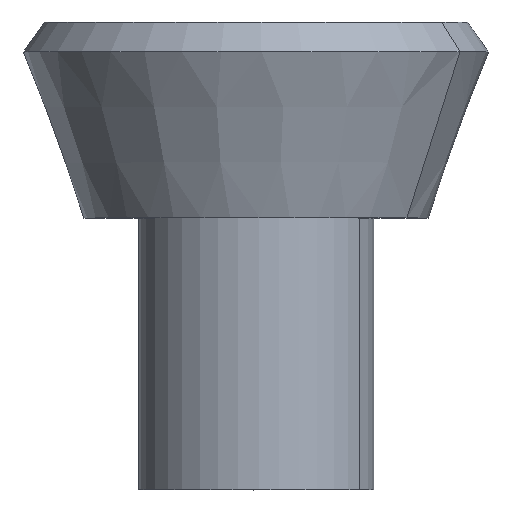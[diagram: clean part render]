
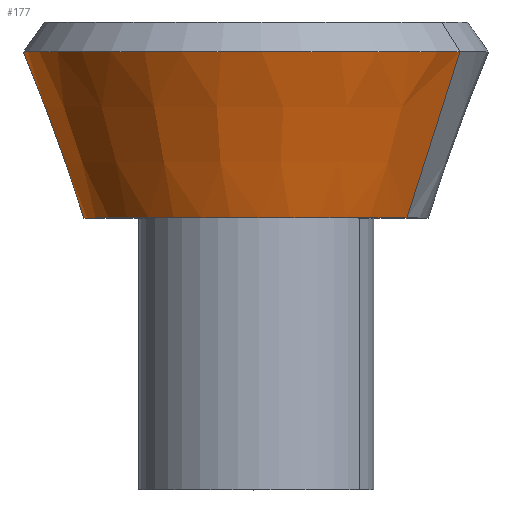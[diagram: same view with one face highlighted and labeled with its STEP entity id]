
A CAD part, top view. The second image highlights one B-rep face of the part: STEP entity #177.
In plain terms, the highlighted conical face has half-angle 20 degrees and reference radius 95 mm.
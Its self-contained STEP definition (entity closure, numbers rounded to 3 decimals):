
#114=CARTESIAN_POINT('Axis2P3D Location',(0.,0.,0.)) ;
#118=CARTESIAN_POINT('Vertex',(83.37,0.,45.545)) ;
#120=CARTESIAN_POINT('Vertex',(-83.37,0.,-45.545)) ;
#147=CARTESIAN_POINT('Axis2P3D Location',(0.,0.,0.)) ;
#152=CARTESIAN_POINT('Line Origine',(98.013,45.841,53.544)) ;
#156=CARTESIAN_POINT('Vertex',(112.655,91.682,61.544)) ;
#159=CARTESIAN_POINT('Axis2P3D Location',(0.,91.682,0.)) ;
#163=CARTESIAN_POINT('Vertex',(-112.655,91.682,-61.544)) ;
#166=CARTESIAN_POINT('Line Origine',(-98.013,45.841,-53.544)) ;
#115=DIRECTION('Axis2P3D Direction',(0.,-1.,0.)) ;
#148=DIRECTION('Axis2P3D Direction',(-0.,1.,-0.)) ;
#149=DIRECTION('Axis2P3D XDirection',(0.878,0.,0.479)) ;
#153=DIRECTION('Vector Direction',(0.3,0.94,0.164)) ;
#160=DIRECTION('Axis2P3D Direction',(0.,1.,-0.)) ;
#167=DIRECTION('Vector Direction',(-0.3,0.94,-0.164)) ;
#116=AXIS2_PLACEMENT_3D('Circle Axis2P3D',#114,#115,$) ;
#150=AXIS2_PLACEMENT_3D('Cone Axis2P3D',#147,#148,#149) ;
#161=AXIS2_PLACEMENT_3D('Circle Axis2P3D',#159,#160,$) ;
#172=ORIENTED_EDGE('',*,*,#122,.F.) ;
#173=ORIENTED_EDGE('',*,*,#158,.T.) ;
#174=ORIENTED_EDGE('',*,*,#165,.T.) ;
#175=ORIENTED_EDGE('',*,*,#170,.F.) ;
#154=VECTOR('Line Direction',#153,1.) ;
#168=VECTOR('Line Direction',#167,1.) ;
#177=ADVANCED_FACE('PartBody',(#176),#151,.T.) ;
#117=CIRCLE('generated circle',#116,95.) ;
#162=CIRCLE('generated circle',#161,128.369) ;
#151=CONICAL_SURFACE('Cone',#150,95.,0.349) ;
#122=EDGE_CURVE('',#119,#121,#117,.T.) ;
#158=EDGE_CURVE('',#119,#157,#155,.T.) ;
#165=EDGE_CURVE('',#157,#164,#162,.F.) ;
#170=EDGE_CURVE('',#121,#164,#169,.T.) ;
#171=EDGE_LOOP('',(#172,#173,#174,#175)) ;
#176=FACE_OUTER_BOUND('',#171,.T.) ;
#155=LINE('Line',#152,#154) ;
#169=LINE('Line',#166,#168) ;
#119=VERTEX_POINT('',#118) ;
#121=VERTEX_POINT('',#120) ;
#157=VERTEX_POINT('',#156) ;
#164=VERTEX_POINT('',#163) ;
